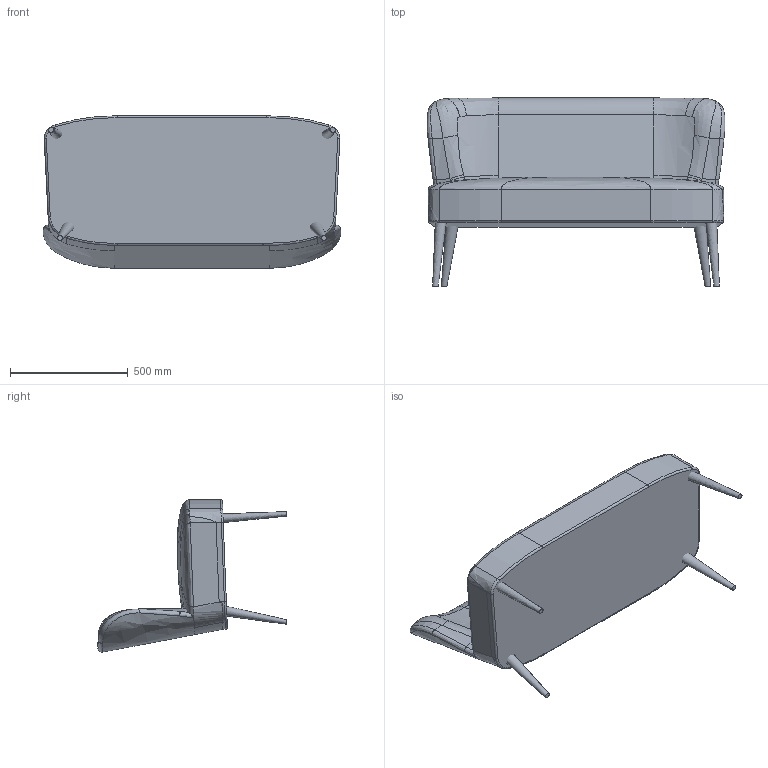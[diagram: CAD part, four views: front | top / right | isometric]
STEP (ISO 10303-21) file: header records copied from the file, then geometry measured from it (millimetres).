
FILE_DESCRIPTION (( 'STEP AP203' ), '1' );
FILE_NAME ('Cocktail_double.STEP', '2018-11-22T11:53:36', ( '' ), ( '' ), 'SwSTEP 2.0', 'SolidWorks 2014', '' );
FILE_SCHEMA (( 'CONFIG_CONTROL_DESIGN' ));
Length unit declared in the file: millimetre
Products named in the file (1): Cocktail_double
Bounding box: 1265.04 x 800.2 x 646.67 mm (x, y, z)
Volume: 168460260.9 mm3; surface area: 2953004.8 mm2
Topology: 5 solids, 5 shells, 108 faces, 315 edges, 202 vertices
Faces by surface type: bspline 85, plane 18, cylinder 5
Entity records: 38131 total; most frequent: CARTESIAN_POINT 36082, ORIENTED_EDGE 584, EDGE_CURVE 292, B_SPLINE_CURVE_WITH_KNOTS 227, VERTEX_POINT 198, DIRECTION 117, FACE_OUTER_BOUND 112, EDGE_LOOP 112
